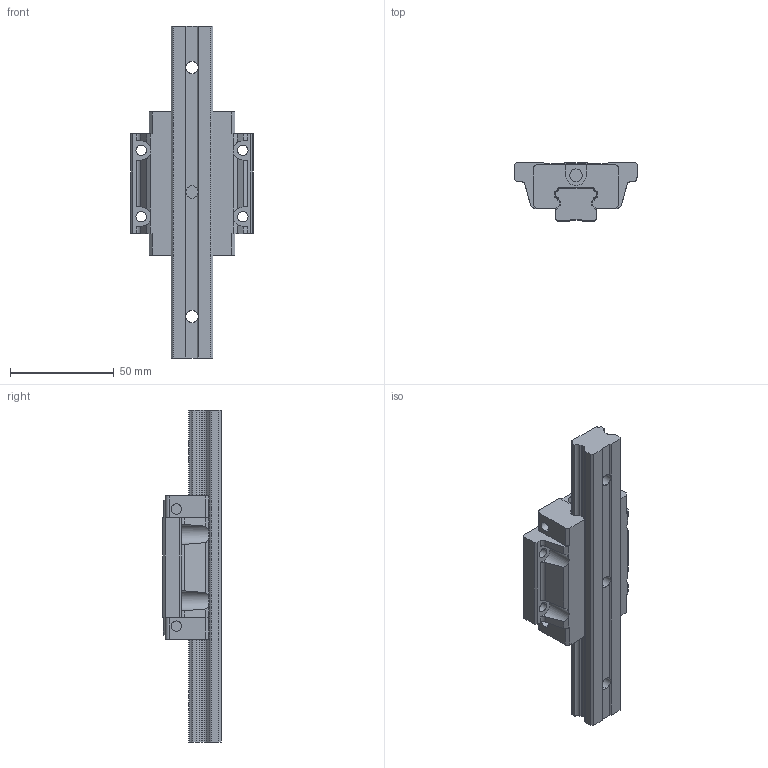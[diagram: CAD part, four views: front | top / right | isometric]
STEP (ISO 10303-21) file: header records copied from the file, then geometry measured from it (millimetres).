
FILE_DESCRIPTION((''),'2;1');
FILE_NAME('QEW20CA_ASM','2008-07-11T',('brianyu'),(''),'PRO/ENGINEER BY PARAMETRIC TECHNOLOGY CORPORATION, 2004360','PRO/ENGINEER BY PARAMETRIC TECHNOLOGY CORPORATION, 2004360','');
FILE_SCHEMA(('CONFIG_CONTROL_DESIGN'));
Length unit declared in the file: millimetre
Products named in the file (4): QEW20CA_BLOCK; PRT0004; QEW20CA_ASM_ASM; QEW20CA_ASM
Assembly tree (3 placements, depth 3):
  QEW20CA_ASM
    QEW20CA_ASM_ASM
      QEW20CA_BLOCK
      PRT0004
Bounding box: 59 x 28 x 160 mm (x, y, z)
Volume: 100146.3 mm3; surface area: 28103.6 mm2
Topology: 2 solids, 2 shells, 279 faces, 809 edges, 544 vertices
Faces by surface type: plane 147, cylinder 121, extrusion 11
Entity records: 9580 total; most frequent: CARTESIAN_POINT 1898, ORIENTED_EDGE 1618, DIRECTION 1572, EDGE_CURVE 809, VERTEX_POINT 544, VECTOR 534, LINE 523, AXIS2_PLACEMENT_3D 519
